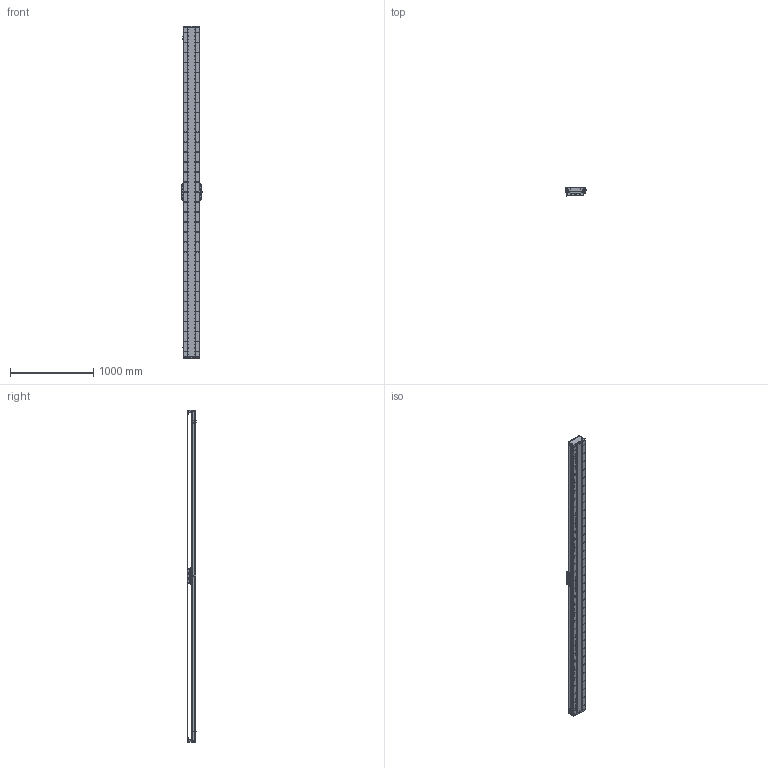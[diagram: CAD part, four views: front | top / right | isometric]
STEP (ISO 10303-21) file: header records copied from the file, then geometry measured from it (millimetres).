
FILE_DESCRIPTION (( 'STEP AP203' ), '1' );
FILE_NAME ('DA-C195-C2-T3720-C010-0.2 眻盄萇儂.STEP', '2025-08-15T01:21:23', ( '' ), ( '' ), 'SwSTEP 2.0', 'SolidWorks 2019', '' );
FILE_SCHEMA (( 'CONFIG_CONTROL_DESIGN' ));
Length unit declared in the file: millimetre
Products named in the file (15): DA195詩湍菜輸; 葩璃 DA95-GT-T-00; MS200 棠掑喜S315-T1740; DA195詩湍郪璃; DA195詩湍嶺輸; IU-CU195-L 菁釱絳寢; DA-C195-GD-DB-H-00 傷啣; CU195-C2賑輸-俋楷; PM-T45ㄗ侂狟ㄘ; LMT黍杅芛; DA165-GYP-00 光电感应片(默认); DA95-HXJ-00 遣喳砎蝶; DA-C195-C2-T3720-C010-0.2 眻盄萇儂; IU-CU195-L-00 菁釱(L3960); DA195詩湍裔啣
Assembly tree (29 placements, depth 3):
  DA-C195-C2-T3720-C010-0.2 眻盄萇儂
    DA195詩湍郪璃
      DA195詩湍菜輸  x2
      DA195詩湍裔啣
      DA195詩湍嶺輸  x2
      DA95-HXJ-00 遣喳砎蝶  x8
      DA-C195-GD-DB-H-00 傷啣  x2
    IU-CU195-L 菁釱絳寢
      IU-CU195-L-00 菁釱(L3960)
      葩璃 DA95-GT-T-00  x4
    LMT黍杅芛
    MS200 棠掑喜S315-T1740
    PM-T45ㄗ侂狟ㄘ  x3
    DA165-GYP-00 光电感应片(默认)
    CU195-C2賑輸-俋楷
Bounding box: 248 x 115.45 x 4000 mm (x, y, z)
Volume: 21997049 mm3; surface area: 6595447.5 mm2
Topology: 66 solids, 130 shells, 4952 faces, 14419 edges, 9159 vertices
Faces by surface type: cylinder 2911, plane 1423, cone 530, torus 52, sphere 36
Entity records: 169763 total; most frequent: CARTESIAN_POINT 49678, ORIENTED_EDGE 25722, DIRECTION 23792, EDGE_CURVE 12861, AXIS2_PLACEMENT_3D 8973, VERTEX_POINT 8361, LINE 5846, VECTOR 5846
